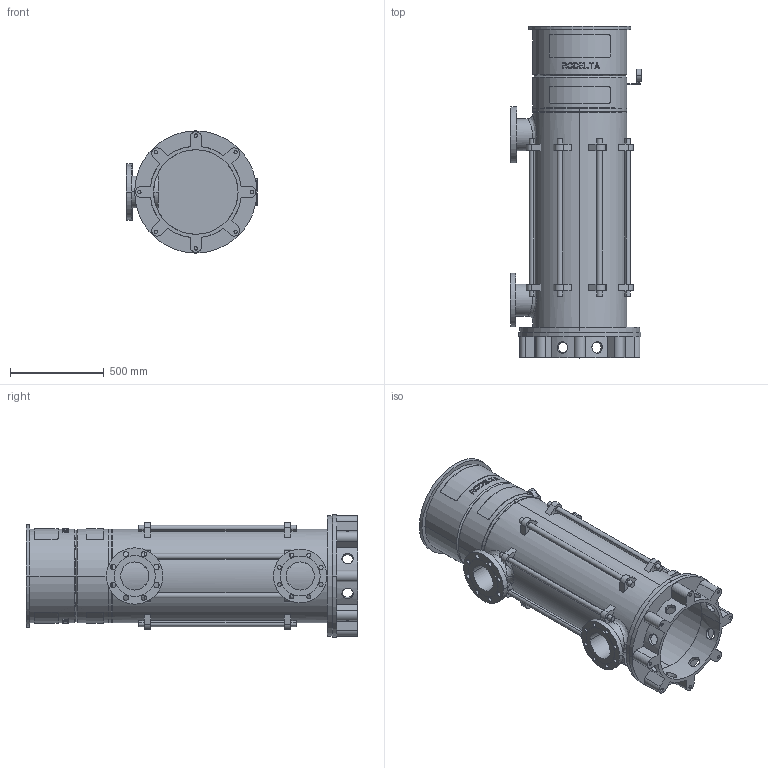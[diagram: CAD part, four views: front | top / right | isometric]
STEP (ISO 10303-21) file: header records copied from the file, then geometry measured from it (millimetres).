
FILE_DESCRIPTION((''),'2;1');
FILE_NAME('LS6_5TR_0GR_PN25_ABOVE_30KW','2025-10-24T10:33:47',('Lyritlocal'),(''),'CREO PARAMETRIC BY PTC INC, 2022014','CREO PARAMETRIC BY PTC INC, 2022014','');
FILE_SCHEMA(('CONFIG_CONTROL_DESIGN'));
Length unit declared in the file: millimetre
Products named in the file (1): LS6_5TR_0GR_PN25_ABOVE_30KW
Bounding box: 700 x 1765 x 650 mm (x, y, z)
Volume: 57089205.6 mm3; surface area: 7979077.6 mm2
Topology: 3 solids, 11 shells, 732 faces, 1889 edges, 1258 vertices
Faces by surface type: plane 438, cylinder 274, cone 12, bspline 8
Entity records: 24200 total; most frequent: CARTESIAN_POINT 6380, ORIENTED_EDGE 3746, DIRECTION 3535, EDGE_CURVE 1889, AXIS2_PLACEMENT_3D 1341, VERTEX_POINT 1258, EDGE_LOOP 895, VECTOR 853
